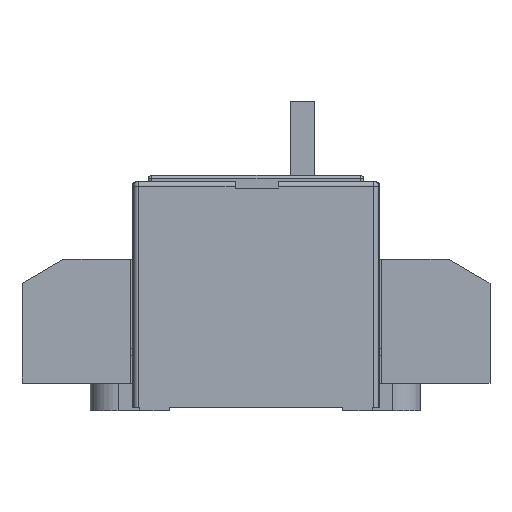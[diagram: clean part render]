
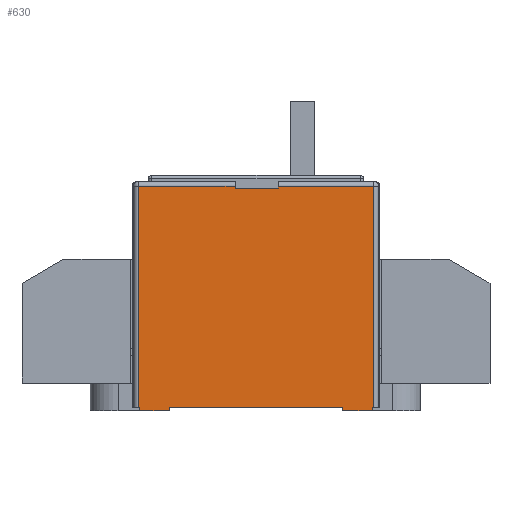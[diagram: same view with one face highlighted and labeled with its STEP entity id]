
A CAD part, left-side view. The second image highlights one B-rep face of the part: STEP entity #630.
In plain terms, the highlighted planar face has unit normal (-1, 0, 0).
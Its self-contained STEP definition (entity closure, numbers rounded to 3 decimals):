
#630=ADVANCED_FACE('',(#1419),#1098,.F.);
#1098=PLANE('',#8963);
#1419=FACE_OUTER_BOUND('',#1864,.T.);
#1864=EDGE_LOOP('',(#2793,#2794,#2795,#2796,#2797,#2798,#2799,#2800,#2801,
#2802,#2803,#2804,#2805,#2806,#2807,#2808));
#2793=ORIENTED_EDGE('',*,*,#5997,.F.);
#2794=ORIENTED_EDGE('',*,*,#5998,.T.);
#2795=ORIENTED_EDGE('',*,*,#5999,.T.);
#2796=ORIENTED_EDGE('',*,*,#6000,.F.);
#2797=ORIENTED_EDGE('',*,*,#6001,.T.);
#2798=ORIENTED_EDGE('',*,*,#6002,.T.);
#2799=ORIENTED_EDGE('',*,*,#5995,.T.);
#2800=ORIENTED_EDGE('',*,*,#5847,.T.);
#2801=ORIENTED_EDGE('',*,*,#5992,.F.);
#2802=ORIENTED_EDGE('',*,*,#6003,.F.);
#2803=ORIENTED_EDGE('',*,*,#6004,.T.);
#2804=ORIENTED_EDGE('',*,*,#5678,.T.);
#2805=ORIENTED_EDGE('',*,*,#6005,.F.);
#2806=ORIENTED_EDGE('',*,*,#6006,.F.);
#2807=ORIENTED_EDGE('',*,*,#6007,.T.);
#2808=ORIENTED_EDGE('',*,*,#5863,.T.);
#4880=VERTEX_POINT('',#12201);
#4881=VERTEX_POINT('',#12203);
#5037=VERTEX_POINT('',#12552);
#5038=VERTEX_POINT('',#12554);
#5049=VERTEX_POINT('',#12580);
#5052=VERTEX_POINT('',#12586);
#5132=VERTEX_POINT('',#12833);
#5134=VERTEX_POINT('',#12841);
#5135=VERTEX_POINT('',#12845);
#5136=VERTEX_POINT('',#12847);
#5137=VERTEX_POINT('',#12849);
#5138=VERTEX_POINT('',#12851);
#5139=VERTEX_POINT('',#12853);
#5140=VERTEX_POINT('',#12856);
#5141=VERTEX_POINT('',#12859);
#5142=VERTEX_POINT('',#12861);
#5678=EDGE_CURVE('',#4881,#4880,#6927,.T.);
#5847=EDGE_CURVE('',#5038,#5037,#7063,.T.);
#5863=EDGE_CURVE('',#5049,#5052,#7075,.T.);
#5992=EDGE_CURVE('',#5132,#5037,#7189,.T.);
#5995=EDGE_CURVE('',#5134,#5038,#7192,.T.);
#5997=EDGE_CURVE('',#5135,#5052,#7193,.T.);
#5998=EDGE_CURVE('',#5135,#5136,#7194,.T.);
#5999=EDGE_CURVE('',#5136,#5137,#7195,.T.);
#6000=EDGE_CURVE('',#5138,#5137,#7196,.T.);
#6001=EDGE_CURVE('',#5138,#5139,#7197,.T.);
#6002=EDGE_CURVE('',#5139,#5134,#7198,.T.);
#6003=EDGE_CURVE('',#5140,#5132,#7199,.T.);
#6004=EDGE_CURVE('',#5140,#4881,#7200,.T.);
#6005=EDGE_CURVE('',#5141,#4880,#7201,.T.);
#6006=EDGE_CURVE('',#5142,#5141,#7202,.T.);
#6007=EDGE_CURVE('',#5142,#5049,#7203,.T.);
#6927=LINE('',#12202,#7911);
#7063=LINE('',#12553,#8047);
#7075=LINE('',#12587,#8059);
#7189=LINE('',#12834,#8173);
#7192=LINE('',#12840,#8176);
#7193=LINE('',#12844,#8177);
#7194=LINE('',#12846,#8178);
#7195=LINE('',#12848,#8179);
#7196=LINE('',#12850,#8180);
#7197=LINE('',#12852,#8181);
#7198=LINE('',#12854,#8182);
#7199=LINE('',#12855,#8183);
#7200=LINE('',#12857,#8184);
#7201=LINE('',#12858,#8185);
#7202=LINE('',#12860,#8186);
#7203=LINE('',#12862,#8187);
#7911=VECTOR('',#9669,1.);
#8047=VECTOR('',#9921,1.);
#8059=VECTOR('',#9947,1.);
#8173=VECTOR('',#10167,1.);
#8176=VECTOR('',#10174,1.);
#8177=VECTOR('',#10179,1.);
#8178=VECTOR('',#10180,1.);
#8179=VECTOR('',#10181,1.);
#8180=VECTOR('',#10182,1.);
#8181=VECTOR('',#10183,1.);
#8182=VECTOR('',#10184,1.);
#8183=VECTOR('',#10185,1.);
#8184=VECTOR('',#10186,1.);
#8185=VECTOR('',#10187,1.);
#8186=VECTOR('',#10188,1.);
#8187=VECTOR('',#10189,1.);
#8963=AXIS2_PLACEMENT_3D('',#12863,#10190,#10191);
#9669=DIRECTION('',(0.,-1.,0.));
#9921=DIRECTION('',(0.,-1.,0.));
#9947=DIRECTION('',(0.,-1.,0.));
#10167=DIRECTION('',(0.,0.,1.));
#10174=DIRECTION('',(0.,0.,-1.));
#10179=DIRECTION('',(0.,0.,-1.));
#10180=DIRECTION('',(0.,1.,0.));
#10181=DIRECTION('',(0.,0.,-1.));
#10182=DIRECTION('',(0.,-1.,0.));
#10183=DIRECTION('',(0.,0.,1.));
#10184=DIRECTION('',(0.,1.,0.));
#10185=DIRECTION('',(0.,1.,0.));
#10186=DIRECTION('',(0.,0.,1.));
#10187=DIRECTION('',(0.,0.,1.));
#10188=DIRECTION('',(0.,1.,0.));
#10189=DIRECTION('',(0.,0.,1.));
#10190=DIRECTION('',(1.,0.,0.));
#10191=DIRECTION('',(0.,0.,-1.));
#12201=CARTESIAN_POINT('',(-69.,-52.735,-3.9));
#12202=CARTESIAN_POINT('',(-69.,-62.235,-3.9));
#12203=CARTESIAN_POINT('',(-69.,3.265,-3.9));
#12552=CARTESIAN_POINT('',(-69.,12.765,-3.9));
#12553=CARTESIAN_POINT('',(-69.,-62.235,-3.9));
#12554=CARTESIAN_POINT('',(-69.,13.265,-3.9));
#12580=CARTESIAN_POINT('',(-69.,-62.235,-3.9));
#12586=CARTESIAN_POINT('',(-69.,-62.735,-3.9));
#12587=CARTESIAN_POINT('',(-69.,-62.235,-3.9));
#12833=CARTESIAN_POINT('',(-69.,12.765,-4.9));
#12834=CARTESIAN_POINT('',(-69.,12.765,-5.9));
#12840=CARTESIAN_POINT('',(-69.,13.265,69.1));
#12841=CARTESIAN_POINT('',(-69.,13.265,67.6));
#12844=CARTESIAN_POINT('',(-69.,-62.735,69.1));
#12845=CARTESIAN_POINT('',(-69.,-62.735,67.6));
#12846=CARTESIAN_POINT('',(-69.,13.265,67.6));
#12847=CARTESIAN_POINT('',(-69.,-31.985,67.6));
#12848=CARTESIAN_POINT('',(-69.,-31.985,69.1));
#12849=CARTESIAN_POINT('',(-69.,-31.985,67.));
#12850=CARTESIAN_POINT('',(-69.,12.765,67.));
#12851=CARTESIAN_POINT('',(-69.,-17.985,67.));
#12852=CARTESIAN_POINT('',(-69.,-17.985,69.1));
#12853=CARTESIAN_POINT('',(-69.,-17.985,67.6));
#12854=CARTESIAN_POINT('',(-69.,13.265,67.6));
#12855=CARTESIAN_POINT('',(-69.,3.265,-4.9));
#12856=CARTESIAN_POINT('',(-69.,3.265,-4.9));
#12857=CARTESIAN_POINT('',(-69.,3.265,-5.9));
#12858=CARTESIAN_POINT('',(-69.,-52.735,-5.9));
#12859=CARTESIAN_POINT('',(-69.,-52.735,-4.9));
#12860=CARTESIAN_POINT('',(-69.,-62.235,-4.9));
#12861=CARTESIAN_POINT('',(-69.,-62.235,-4.9));
#12862=CARTESIAN_POINT('',(-69.,-62.235,-5.9));
#12863=CARTESIAN_POINT('',(-69.,-62.235,69.1));
